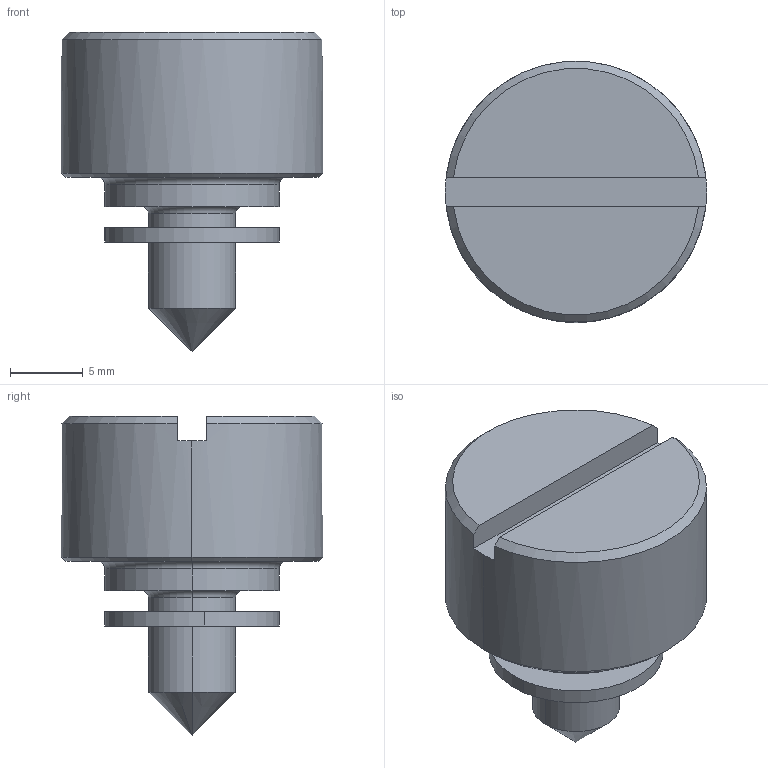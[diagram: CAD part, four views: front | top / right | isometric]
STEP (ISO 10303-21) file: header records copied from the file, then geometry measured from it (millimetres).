
FILE_DESCRIPTION (( 'STEP AP203' ), '1' );
FILE_NAME ('SCR-MK102(S)-7.STEP', '2013-07-02T08:53:08', ( 'SDS' ), ( 'SDS' ), 'SwSTEP 2.0', 'SolidWorks 2002296', '' );
FILE_SCHEMA (( 'CONFIG_CONTROL_DESIGN' ));
Length unit declared in the file: millimetre
Products named in the file (3): SCR-MK102(S)-7; SCR-MK102(S)-7-1_蹬怮椔; SCR-MK102(S)-7-2_蹬怮椔
Assembly tree (2 placements, depth 2):
  SCR-MK102(S)-7
    SCR-MK102(S)-7-1_蹬怮椔
    SCR-MK102(S)-7-2_蹬怮椔
Bounding box: 18 x 18 x 22 mm (x, y, z)
Volume: 3010.1 mm3; surface area: 1527.3 mm2
Topology: 2 solids, 2 shells, 29 faces, 64 edges, 39 vertices
Faces by surface type: cylinder 10, plane 9, cone 6, torus 4
Entity records: 1109 total; most frequent: DIRECTION 162, CARTESIAN_POINT 147, ORIENTED_EDGE 124, AXIS2_PLACEMENT_3D 70, EDGE_CURVE 62, VERTEX_POINT 39, CIRCLE 36, EDGE_LOOP 33
